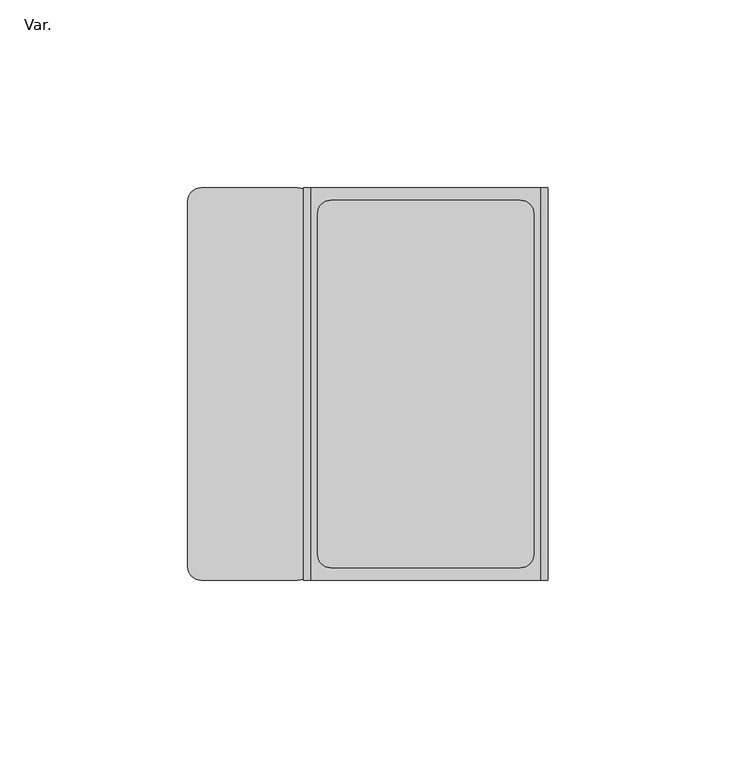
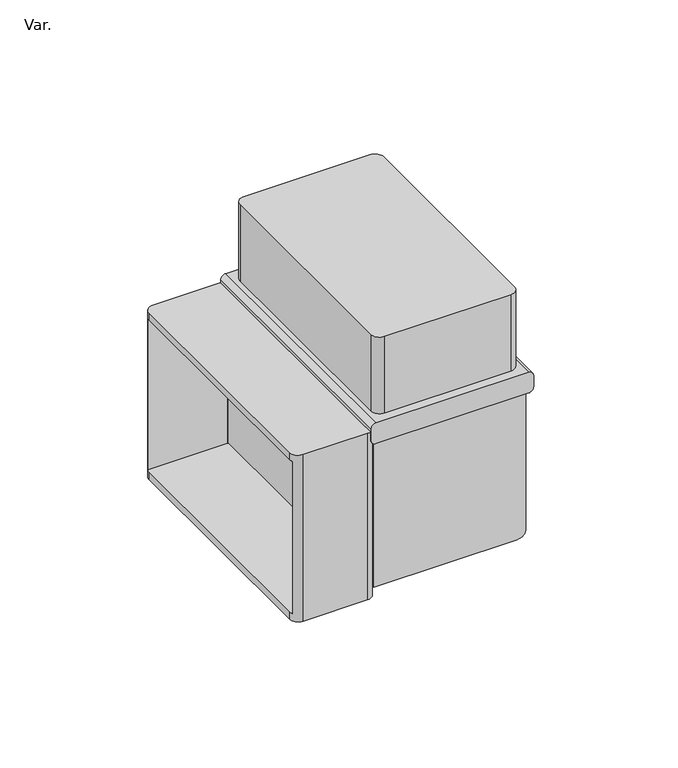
"""IFC4 building model written with IfcOpenShell, lengths in millimetres: pipe fitting geometry, AmancoWavin_Unionesdetubería_CanalesyBajantes_CodoRectangular : Var.."""

import ifcopenshell
import ifcopenshell.guid

model = None  # the IFC model being written
_history = None  # IfcOwnerHistory: only IFC2X3 demands one
_inside = {}  # id of a spatial element -> (the spatial element, [elements in it])
_under = {}  # id of a project, library or spatial element -> (it, [spatial elements below it])
_declared = {}  # id of a project -> (the project, [libraries it declares])
_typed = {}  # id of a type object -> (the type object, [elements of that type])
_made_of = {}  # id of a material, layer set ... -> (it, [elements and type objects made of it])


def new_model(schema):
    """Start an empty IFC model of exactly this schema.

    Asked for "IFC4X3", IfcOpenShell would pick the latest addendum, in which some entities
    have other attributes; the version numbers below select the first issue.
    IFC2X3 requires an IfcOwnerHistory on every rooted entity: one is made here for all.
    """
    global model, _history
    if schema == "IFC4X3":
        model = ifcopenshell.file(schema_version=(4, 3, 0, 0))
    else:
        model = ifcopenshell.file(schema=schema)
    _inside.clear()
    _under.clear()
    _declared.clear()
    _typed.clear()
    _made_of.clear()
    _history = None
    if model.schema == "IFC2X3":
        org = make("IfcOrganization", Name="unknown")
        user = make(
            "IfcPersonAndOrganization",
            ThePerson=make("IfcPerson", FamilyName="unknown"),
            TheOrganization=org,
        )
        app = make(
            "IfcApplication",
            ApplicationDeveloper=org,
            Version="unknown",
            ApplicationFullName="unknown",
            ApplicationIdentifier="unknown",
        )
        _history = make(
            "IfcOwnerHistory",
            OwningUser=user,
            OwningApplication=app,
            ChangeAction="ADDED",
            CreationDate=0,
        )
    return model


def make(cls, **values):
    """One entity of the class cls with the attributes given. An attribute that is None is left unset."""
    return model.create_entity(
        cls, **{name: value for name, value in values.items() if value is not None}
    )


def rooted(cls, **values):
    """An entity with a GlobalId (a new one), such as an element, a storey or a relation."""
    return make(cls, GlobalId=ifcopenshell.guid.new(), OwnerHistory=_history, **values)


def si_unit(unit_type, name, prefix=None):
    """IfcSIUnit, for example si_unit("LENGTHUNIT", "METRE", prefix="MILLI")."""
    return make("IfcSIUnit", UnitType=unit_type, Prefix=prefix, Name=name)


def assignment(units):
    """IfcUnitAssignment: the units of a project."""
    return None if units is None else make("IfcUnitAssignment", Units=units)


def point(xyz):
    """IfcCartesianPoint."""
    return None if xyz is None else make("IfcCartesianPoint", Coordinates=xyz)


def direction(xyz):
    """IfcDirection."""
    return None if xyz is None else make("IfcDirection", DirectionRatios=xyz)


def frame(location, z_axis=None, x_axis=None):
    """IfcAxis2Placement3D, a coordinate frame: its origin and axes. An axis left out is left unset."""
    return make(
        "IfcAxis2Placement3D",
        Location=point(location),
        Axis=direction(z_axis),
        RefDirection=direction(x_axis),
    )


def frame_2d(location, x_axis=None):
    """IfcAxis2Placement2D, a coordinate frame in the plane: its origin and x axis."""
    return make(
        "IfcAxis2Placement2D", Location=point(location), RefDirection=direction(x_axis)
    )


def origin():
    """The frame at (0, 0, 0) with its axes left unset."""
    return frame((0.0, 0.0, 0.0))


def place(relative_to, where):
    """IfcLocalPlacement: puts the frame where relative to a parent placement (None: the world)."""
    return make(
        "IfcLocalPlacement", PlacementRelTo=relative_to, RelativePlacement=where
    )


def context(
    kind, dimensions, precision=None, world=None, true_north=None, identifier=None
):
    """IfcGeometricRepresentationContext, for example the 3D "Model" context."""
    return make(
        "IfcGeometricRepresentationContext",
        ContextIdentifier=identifier,
        ContextType=kind,
        CoordinateSpaceDimension=dimensions,
        Precision=precision,
        WorldCoordinateSystem=world,
        TrueNorth=true_north,
    )


def project(units=None, contexts=None):
    """IfcProject with its units and contexts."""
    return rooted(
        "IfcProject",
        Name="project",
        RepresentationContexts=contexts,
        UnitsInContext=assignment(units),
    )


def spatial(cls, under=None, at=None, **own):
    """A site, building, storey or space (cls), placed at a placement, below another one or the project."""
    s = rooted(cls, ObjectPlacement=at, **own)
    if under is not None:
        _under.setdefault(under.id(), (under, []))[1].append(s)
    return s


def polyline(points):
    """IfcPolyline through the points."""
    return make("IfcPolyline", Points=[point(p) for p in points])


def circle_curve(where, radius):
    """IfcCircle in the frame where."""
    return make("IfcCircle", Position=where, Radius=radius)


def trimmed(basis, trim1, trim2, sense, master):
    """IfcTrimmedCurve: the piece of a basis curve between two trims."""
    return make(
        "IfcTrimmedCurve",
        BasisCurve=basis,
        Trim1=trim1,
        Trim2=trim2,
        SenseAgreement=sense,
        MasterRepresentation=master,
    )


def segment(curve, same_sense, transition):
    """IfcCompositeCurveSegment."""
    return make(
        "IfcCompositeCurveSegment",
        Transition=transition,
        SameSense=same_sense,
        ParentCurve=curve,
    )


def composite_curve(segments, self_intersect=None):
    """IfcCompositeCurve: segments joined end to end."""
    return make("IfcCompositeCurve", Segments=segments, SelfIntersect=self_intersect)


def outline(outer, holes=None, kind="AREA"):
    """IfcArbitraryClosedProfileDef: a profile drawn as a closed curve; with holes, ...WithVoids."""
    if holes is None:
        return make("IfcArbitraryClosedProfileDef", ProfileType=kind, OuterCurve=outer)
    return make(
        "IfcArbitraryProfileDefWithVoids",
        ProfileType=kind,
        OuterCurve=outer,
        InnerCurves=holes,
    )


def extrude(swept, where, along, depth):
    """IfcExtrudedAreaSolid: the profile swept, set in the frame where, extruded along a direction by depth."""
    return make(
        "IfcExtrudedAreaSolid",
        SweptArea=swept,
        Position=where,
        ExtrudedDirection=direction(along),
        Depth=depth,
    )


def shape(context_of_items, identifier, shape_type, items):
    """IfcShapeRepresentation: the items that make up one representation, for example the "Body"."""
    return make(
        "IfcShapeRepresentation",
        ContextOfItems=context_of_items,
        RepresentationIdentifier=identifier,
        RepresentationType=shape_type,
        Items=items,
    )


def source(mapping_origin, context_of_items, identifier, shape_type, items):
    """IfcRepresentationMap: a shape defined once, which mapped items show again and again."""
    return make(
        "IfcRepresentationMap",
        MappingOrigin=mapping_origin,
        MappedRepresentation=shape(context_of_items, identifier, shape_type, items),
    )


def transform(
    local_origin,
    x_axis=None,
    y_axis=None,
    z_axis=None,
    scale=None,
    scale2=None,
    scale3=None,
    uniform=True,
):
    """IfcCartesianTransformationOperator3D, or its non-uniform kind. x_axis, y_axis, z_axis: its Axis1, 2, 3."""
    if uniform:
        return make(
            "IfcCartesianTransformationOperator3D",
            Axis1=direction(x_axis),
            Axis2=direction(y_axis),
            LocalOrigin=point(local_origin),
            Scale=scale,
            Axis3=direction(z_axis),
        )
    return make(
        "IfcCartesianTransformationOperator3DnonUniform",
        Axis1=direction(x_axis),
        Axis2=direction(y_axis),
        LocalOrigin=point(local_origin),
        Scale=scale,
        Axis3=direction(z_axis),
        Scale2=scale2,
        Scale3=scale3,
    )


def mapped(mapping_source, mapping_target):
    """IfcMappedItem: shows the shape of a source again, moved by a transform."""
    return make(
        "IfcMappedItem", MappingSource=mapping_source, MappingTarget=mapping_target
    )


def made_of(thing, what):
    """Note that an element or type object is made of a material, layer set ...; save() writes the relation."""
    if what is not None:
        _made_of.setdefault(what.id(), (what, []))[1].append(thing)
    return thing


def element(
    cls,
    number,
    at=None,
    inside=None,
    cuts=None,
    type_object=None,
    material=None,
    context=None,
    identifier="Body",
    shape_type=None,
    held_by="IfcProductDefinitionShape",
    body=None,
    shapes=None,
    **own,
):
    """One element of the class cls, such as IfcWall. Its Tag is "e" and its number.

    at: its placement. inside: the storey or other place that contains it. cuts: it is an
    opening in that element (IfcRelVoidsElement). A single representation is given by context,
    identifier, shape_type and body (its items); several are given by shapes. held_by: the class
    of the entity that holds the representations. save() writes the other relations.
    """
    e = rooted(cls, Tag="e%d" % number, ObjectPlacement=at, **own)
    if body is not None:
        shapes = [shape(context, identifier, shape_type, body)]
    if shapes is not None:
        e.Representation = make(held_by, Representations=shapes)
    if inside is not None:
        _inside.setdefault(inside.id(), (inside, []))[1].append(e)
    if cuts is not None:
        rooted(
            "IfcRelVoidsElement", RelatingBuildingElement=cuts, RelatedOpeningElement=e
        )
    if type_object is not None:
        _typed.setdefault(type_object.id(), (type_object, []))[1].append(e)
    return made_of(e, material)


def aggregate(whole, parts):
    """IfcRelAggregates: a whole, such as a stair, and the parts it consists of."""
    return rooted("IfcRelAggregates", RelatingObject=whole, RelatedObjects=parts)


def save(model, path):
    """Write the relations noted so far, then the file.

    IfcRelAggregates (storeys below a building ...), IfcRelContainedInSpatialStructure (elements
    in a storey), IfcRelDefinesByType, IfcRelAssociatesMaterial and IfcRelDeclares: one each for
    every whole, place, type object, material and project.
    """
    for whole, parts in _under.values():
        aggregate(whole, parts)
    for where, things in _inside.values():
        rooted(
            "IfcRelContainedInSpatialStructure",
            RelatedElements=things,
            RelatingStructure=where,
        )
    for kind, things in _typed.values():
        rooted("IfcRelDefinesByType", RelatedObjects=things, RelatingType=kind)
    for what, things in _made_of.values():
        rooted("IfcRelAssociatesMaterial", RelatedObjects=things, RelatingMaterial=what)
    for by, libraries in _declared.values():
        rooted("IfcRelDeclares", RelatingContext=by, RelatedDefinitions=libraries)
    model.write(path)


def plane_surface(at):
    """IfcPlane: the flat surface through the origin of the frame at, square to its z axis."""
    return make("IfcPlane", Position=at)


def cylinder_surface(at, radius):
    """IfcCylindricalSurface: all points at the distance radius from the z axis of the frame at."""
    return make("IfcCylindricalSurface", Position=at, Radius=radius)


def advanced_brep(points, edges, surfaces, faces):
    """IfcAdvancedBrep: a solid bounded by faces that lie on surfaces and meet in shared edges.

    An edge is (start, end): straight between two places in points (the first is 0);
    or (start, end, curve); or (start, end, curve, False) where it runs against its curve.
    A face is (place in surfaces, loops), or (place, loops, False) where it looks against
    its surface's normal. A loop lists edges by number (the first is 1), with a minus sign
    where the edge is run from its end to its start. The first loop is the outer one.
    """
    corners = [point(p) for p in points]
    vertices = [make("IfcVertexPoint", VertexGeometry=c) for c in corners]
    made = []
    for start, end, *more in edges:
        made.append(
            make(
                "IfcEdgeCurve",
                EdgeStart=vertices[start],
                EdgeEnd=vertices[end],
                EdgeGeometry=more[0] if more else make("IfcPolyline", Points=[corners[start], corners[end]]),
                SameSense=more[1] if len(more) > 1 else True,
            )
        )
    hull = []
    for where, loops, *sense in faces:
        bounds = []
        for j, loop in enumerate(loops):
            ring = [make("IfcOrientedEdge", EdgeElement=made[abs(k) - 1], Orientation=k > 0) for k in loop]
            bounds.append(
                make(
                    "IfcFaceOuterBound" if j == 0 else "IfcFaceBound",
                    Bound=make("IfcEdgeLoop", EdgeList=ring),
                    Orientation=True,
                )
            )
        hull.append(make("IfcAdvancedFace", Bounds=bounds, FaceSurface=surfaces[where], SameSense=sense[0] if sense else True))
    return make("IfcAdvancedBrep", Outer=make("IfcClosedShell", CfsFaces=hull))


def var_97ccc338(model_context):
    return source(origin(), model_context, "Body", "SolidModel", [
        advanced_brep(
        [(30.55, -52.18, 38.46), (-30.55, -52.18, 38.46), (-32.55, -52.18, 36.46), (-32.55, -52.18, 31.7218095), (-30.55, -52.18, 29.7218095), (30.55, -52.18, 29.7218095), (32.55, -52.18, 31.7218095), (32.55, -52.18, 36.46), (30.55, 52.18, 38.46), (32.55, 52.18, 36.46), (32.55, 52.18, 31.7218095), (30.55, 52.18, 29.7218095), (-30.55, 52.18, 29.7218095), (-32.55, 52.18, 31.7218095), (-32.55, 52.18, 36.46), (-30.55, 52.18, 38.46), (-32.55, 50.42, 31.7218095), (-32.55, 50.42, 32.31), (-32.55, -50.42, 32.31), (-32.55, -50.42, 31.7218095), (-30.55, -50.42, 29.7218095), (-30.55, 50.42, 29.7218095), (-30.55, -50.42, 32.31), (-30.55, 50.42, 32.31)],
        [
            (0, 1),
            (1, 2, circle_curve(frame((-30.55, -52.18, 36.46), z_axis=(0.0, -1.0, 0.0), x_axis=(1.0, 0.0, 0.0)), 2.0)),
            (2, 3),
            (3, 4, circle_curve(frame((-30.55, -52.18, 31.7218095), z_axis=(0.0, -1.0, 0.0), x_axis=(1.0, 0.0, 0.0)), 2.0)),
            (4, 5),
            (5, 6, circle_curve(frame((30.55, -52.18, 31.7218095), z_axis=(0.0, -1.0, 0.0), x_axis=(1.0, 0.0, 0.0)), 2.0)),
            (6, 7),
            (7, 0, circle_curve(frame((30.55, -52.18, 36.46), z_axis=(0.0, -1.0, 0.0), x_axis=(1.0, 0.0, 0.0)), 2.0)),
            (8, 9, circle_curve(frame((30.55, 52.18, 36.46), z_axis=(0.0, 1.0, 0.0), x_axis=(1.0, 0.0, 0.0)), 2.0)),
            (9, 10),
            (10, 11, circle_curve(frame((30.55, 52.18, 31.7218095), z_axis=(0.0, 1.0, 0.0), x_axis=(1.0, 0.0, 0.0)), 2.0)),
            (11, 12),
            (12, 13, circle_curve(frame((-30.55, 52.18, 31.7218095), z_axis=(0.0, 1.0, 0.0), x_axis=(1.0, 0.0, 0.0)), 2.0)),
            (13, 14),
            (14, 15, circle_curve(frame((-30.55, 52.18, 36.46), z_axis=(0.0, 1.0, 0.0), x_axis=(1.0, 0.0, 0.0)), 2.0)),
            (15, 8),
            (0, 8),
            (15, 1),
            (14, 2),
            (13, 16),
            (16, 17),
            (17, 18),
            (18, 19),
            (19, 3),
            (19, 20, circle_curve(frame((-30.55, -50.42, 31.7218095), z_axis=(0.0, -1.0, 0.0), x_axis=(1.0, 0.0, 0.0)), 2.0)),
            (20, 4),
            (12, 21),
            (21, 16, circle_curve(frame((-30.55, 50.42, 31.7218095), z_axis=(0.0, 1.0, 0.0), x_axis=(1.0, 0.0, 0.0)), 2.0)),
            (20, 21),
            (11, 5),
            (10, 6),
            (9, 7),
            (22, 20),
            (18, 22),
            (21, 23),
            (23, 17),
            (22, 23),
        ],
        [
            plane_surface(frame((-29.9445585, -52.18, 38.46), z_axis=(0.0, -1.0, 0.0), x_axis=(-1.0, 0.0, 0.0))),
            plane_surface(frame((-29.9445585, 52.18, 38.46), z_axis=(0.0, 1.0, 0.0), x_axis=(1.0, 0.0, 0.0))),
            plane_surface(frame((30.55, -52.18, 38.46), z_axis=(0.0, 0.0, 1.0), x_axis=(0.0, 1.0, 0.0))),
            cylinder_surface(frame((-30.55, 52.18, 36.46), z_axis=(0.0, -1.0, 0.0), x_axis=(1.0, 0.0, 0.0)), 2.0),
            plane_surface(frame((-32.55, -52.18, 36.46), z_axis=(-1.0, 0.0, 0.0), x_axis=(0.0, 1.0, 0.0))),
            cylinder_surface(frame((-30.55, 52.18, 31.7218095), z_axis=(0.0, -1.0, 0.0), x_axis=(1.0, 0.0, 0.0)), 2.0),
            plane_surface(frame((-30.55, -52.18, 29.7218095), z_axis=(0.0, 0.0, -1.0), x_axis=(0.0, 1.0, 0.0))),
            cylinder_surface(frame((30.55, 52.18, 31.7218095), z_axis=(0.0, -1.0, 0.0), x_axis=(1.0, 0.0, 0.0)), 2.0),
            plane_surface(frame((32.55, -52.18, 31.7218095), z_axis=(1.0, 0.0, 0.0), x_axis=(0.0, 1.0, 0.0))),
            cylinder_surface(frame((30.55, 52.18, 36.46), z_axis=(0.0, -1.0, 0.0), x_axis=(1.0, 0.0, 0.0)), 2.0),
            plane_surface(frame((-64.2841156, -50.42, 32.31), z_axis=(0.0, 1.0, 0.0), x_axis=(0.0, 0.0, -1.0))),
            plane_surface(frame((-64.2841156, 50.42, 32.31), z_axis=(0.0, -1.0, 0.0), x_axis=(0.0, 0.0, 1.0))),
            plane_surface(frame((-30.55, -50.42, -32.31), z_axis=(-1.0, 0.0, 0.0), x_axis=(0.0, 1.0, 0.0))),
            plane_surface(frame((-30.55, -50.42, 32.31), z_axis=(0.0, 0.0, -1.0), x_axis=(0.0, 1.0, 0.0))),
        ],
        [
            (0, [[1, 2, 3, 4, 5, 6, 7, 8]]),
            (1, [[9, 10, 11, 12, 13, 14, 15, 16]]),
            (2, [[-1, 17, -16, 18]]),
            (3, [[-2, -18, -15, 19]]),
            (4, [[-3, -19, -14, 20, 21, 22, 23, 24]]),
            (5, [[-4, -24, 25, 26]]),
            (5, [[-13, 27, 28, -20]]),
            (6, [[-5, -26, 29, -27, -12, 30]]),
            (7, [[-6, -30, -11, 31]]),
            (8, [[-7, -31, -10, 32]]),
            (9, [[-8, -32, -9, -17]]),
            (10, [[33, -25, -23, 34]]),
            (11, [[35, 36, -21, -28]]),
            (12, [[37, -35, -29, -33]]),
            (13, [[-37, -34, -22, -36]]),
        ],
    ),
        advanced_brep(
        [(-59.85, 52.18, 35.31), (-63.35, 48.68, 35.31), (-63.35, -48.68, 35.31), (-59.85, -52.18, 35.31), (-34.05, -52.18, 35.31), (-30.55, -48.68, 35.31), (-30.55, 48.68, 35.31), (-34.05, 52.18, 35.31), (-59.85, 52.18, -35.31), (-34.05, 52.18, -35.31), (-30.55, 48.68, -35.31), (-30.55, -48.68, -35.31), (-34.05, -52.18, -35.31), (-59.85, -52.18, -35.31), (-63.35, -48.68, -35.31), (-63.35, 48.68, -35.31), (-63.35, 48.68, 32.31), (-63.35, -48.68, 32.31), (-63.35, -48.68, -32.31), (-63.35, 48.68, -32.31), (-30.55, -48.68, 32.31), (-30.55, 48.68, 32.31), (-30.55, 48.68, -32.31), (-30.55, -48.68, -32.31), (-31.0131595, -50.42, -32.31), (-31.0131595, -50.42, 32.31), (-31.0131595, 50.42, 32.31), (-31.0131595, 50.42, -32.31), (-62.8868405, 50.42, -32.31), (-62.8868405, 50.42, 32.31), (-62.8868405, -50.42, 32.31), (-62.8868405, -50.42, -32.31)],
        [
            (0, 1, circle_curve(frame((-59.85, 48.68, 35.31), z_axis=(0.0, 0.0, 1.0), x_axis=(1.0, 0.0, 0.0)), 3.5)),
            (1, 2),
            (2, 3, circle_curve(frame((-59.85, -48.68, 35.31), z_axis=(0.0, 0.0, 1.0), x_axis=(1.0, 0.0, 0.0)), 3.5)),
            (3, 4),
            (4, 5, circle_curve(frame((-34.05, -48.68, 35.31), z_axis=(0.0, 0.0, 1.0), x_axis=(1.0, 0.0, 0.0)), 3.5)),
            (5, 6),
            (6, 7, circle_curve(frame((-34.05, 48.68, 35.31), z_axis=(0.0, 0.0, 1.0), x_axis=(1.0, 0.0, 0.0)), 3.5)),
            (7, 0),
            (8, 9),
            (9, 10, circle_curve(frame((-34.05, 48.68, -35.31), z_axis=(0.0, 0.0, -1.0), x_axis=(1.0, 0.0, 0.0)), 3.5)),
            (10, 11),
            (11, 12, circle_curve(frame((-34.05, -48.68, -35.31), z_axis=(0.0, 0.0, -1.0), x_axis=(1.0, 0.0, 0.0)), 3.5)),
            (12, 13),
            (13, 14, circle_curve(frame((-59.85, -48.68, -35.31), z_axis=(0.0, 0.0, -1.0), x_axis=(1.0, 0.0, 0.0)), 3.5)),
            (14, 15),
            (15, 8, circle_curve(frame((-59.85, 48.68, -35.31), z_axis=(0.0, 0.0, -1.0), x_axis=(1.0, 0.0, 0.0)), 3.5)),
            (1, 16),
            (16, 17),
            (17, 2),
            (14, 18),
            (18, 19),
            (19, 15),
            (3, 13),
            (12, 4),
            (5, 20),
            (20, 21),
            (21, 6),
            (10, 22),
            (22, 23),
            (23, 11),
            (7, 9),
            (8, 0),
            (23, 24, circle_curve(frame((-34.05, -48.68, -32.31), z_axis=(0.0, 0.0, -1.0), x_axis=(1.0, 0.0, 0.0)), 3.5)),
            (24, 25),
            (25, 20, circle_curve(frame((-34.05, -48.68, 32.31), z_axis=(0.0, 0.0, 1.0), x_axis=(1.0, 0.0, 0.0)), 3.5)),
            (21, 26, circle_curve(frame((-34.05, 48.68, 32.31), z_axis=(0.0, 0.0, 1.0), x_axis=(1.0, 0.0, 0.0)), 3.5)),
            (26, 27),
            (27, 22, circle_curve(frame((-34.05, 48.68, -32.31), z_axis=(0.0, 0.0, -1.0), x_axis=(1.0, 0.0, 0.0)), 3.5)),
            (19, 28, circle_curve(frame((-59.85, 48.68, -32.31), z_axis=(0.0, 0.0, -1.0), x_axis=(1.0, 0.0, 0.0)), 3.5)),
            (28, 29),
            (29, 16, circle_curve(frame((-59.85, 48.68, 32.31), z_axis=(0.0, 0.0, 1.0), x_axis=(1.0, 0.0, 0.0)), 3.5)),
            (17, 30, circle_curve(frame((-59.85, -48.68, 32.31), z_axis=(0.0, 0.0, 1.0), x_axis=(1.0, 0.0, 0.0)), 3.5)),
            (30, 31),
            (31, 18, circle_curve(frame((-59.85, -48.68, -32.31), z_axis=(0.0, 0.0, -1.0), x_axis=(1.0, 0.0, 0.0)), 3.5)),
            (30, 25),
            (24, 31),
            (28, 27),
            (26, 29),
        ],
        [
            plane_surface(frame((-56.35, 48.68, 35.31), z_axis=(0.0, 0.0, 1.0), x_axis=(0.0, 1.0, 0.0))),
            plane_surface(frame((-56.35, 48.68, -35.31), z_axis=(0.0, 0.0, -1.0), x_axis=(0.0, -1.0, 0.0))),
            plane_surface(frame((-63.35, 48.68, 35.31), z_axis=(-1.0, 0.0, 0.0), x_axis=(0.0, 0.0, -1.0))),
            plane_surface(frame((-59.85, -52.18, 35.31), z_axis=(0.0, -1.0, 0.0), x_axis=(0.0, 0.0, -1.0))),
            plane_surface(frame((-30.55, -48.68, 35.31), z_axis=(1.0, 0.0, 0.0), x_axis=(0.0, 0.0, -1.0))),
            plane_surface(frame((-34.05, 52.18, 35.31), z_axis=(0.0, 1.0, 0.0), x_axis=(0.0, 0.0, -1.0))),
            cylinder_surface(frame((-34.05, -48.68, -35.31), z_axis=(0.0, 0.0, 1.0), x_axis=(1.0, 0.0, 0.0)), 3.5),
            cylinder_surface(frame((-34.05, 48.68, -35.31), z_axis=(0.0, 0.0, 1.0), x_axis=(1.0, 0.0, 0.0)), 3.5),
            cylinder_surface(frame((-59.85, 48.68, -35.31), z_axis=(0.0, 0.0, 1.0), x_axis=(1.0, 0.0, 0.0)), 3.5),
            cylinder_surface(frame((-59.85, -48.68, -35.31), z_axis=(0.0, 0.0, 1.0), x_axis=(1.0, 0.0, 0.0)), 3.5),
            plane_surface(frame((-64.2841156, -50.42, 32.31), z_axis=(0.0, 1.0, 0.0), x_axis=(0.0, 0.0, -1.0))),
            plane_surface(frame((-64.2841156, 50.42, 32.31), z_axis=(0.0, -1.0, 0.0), x_axis=(0.0, 0.0, 1.0))),
            plane_surface(frame((-64.2841156, -50.42, -32.31), z_axis=(0.0, 0.0, 1.0), x_axis=(0.0, 1.0, 0.0))),
            plane_surface(frame((-30.55, -50.42, 32.31), z_axis=(0.0, 0.0, -1.0), x_axis=(0.0, 1.0, 0.0))),
        ],
        [
            (0, [[1, 2, 3, 4, 5, 6, 7, 8]]),
            (1, [[9, 10, 11, 12, 13, 14, 15, 16]]),
            (2, [[-2, 17, 18, 19]]),
            (2, [[-15, 20, 21, 22]]),
            (3, [[-4, 23, -13, 24]]),
            (4, [[-6, 25, 26, 27]]),
            (4, [[-11, 28, 29, 30]]),
            (5, [[-8, 31, -9, 32]]),
            (6, [[-5, -24, -12, -30, 33, 34, 35, -25]]),
            (7, [[-7, -27, 36, 37, 38, -28, -10, -31]]),
            (8, [[-1, -32, -16, -22, 39, 40, 41, -17]]),
            (9, [[-3, -19, 42, 43, 44, -20, -14, -23]]),
            (10, [[45, -34, 46, -43]]),
            (11, [[47, -37, 48, -40]]),
            (12, [[-46, -33, -29, -38, -47, -39, -21, -44]]),
            (13, [[-45, -42, -18, -41, -48, -36, -26, -35]]),
        ],
    ),
        extrude(outline(composite_curve([segment(polyline([(32.31, -30.55), (-32.31, -30.55), (-32.31, 27.05)]), True, "CONTINUOUS"), segment(trimmed(circle_curve(frame_2d((-28.81, 27.05)), 3.5), [point((-32.31, 27.05))], [point((-28.81, 30.55))], False, "CARTESIAN"), True, "CONTINUOUS"), segment(polyline([(-28.81, 30.55), (28.81, 30.55)]), True, "CONTINUOUS"), segment(trimmed(circle_curve(frame_2d((28.81, 27.05)), 3.5), [point((28.81, 30.55))], [point((32.31, 27.05))], False, "CARTESIAN"), True, "CONTINUOUS"), segment(polyline([(32.31, 27.05), (32.31, -30.55)]), True, "CONTINUOUS")], self_intersect=False)), frame((0.0, -50.42, 0.0), z_axis=(0.0, 1.0, 0.0), x_axis=(0.0, 0.0, 1.0)), (0.0, 0.0, 1.0), 100.84),
        extrude(outline(composite_curve([segment(trimmed(circle_curve(frame_2d((25.29, 45.3575)), 3.5), [point((25.29, 48.8575))], [point((28.79, 45.3575))], False, "CARTESIAN"), True, "CONTINUOUS"), segment(polyline([(28.79, 45.3575), (28.79, -45.3575)]), True, "CONTINUOUS"), segment(trimmed(circle_curve(frame_2d((25.29, -45.3575)), 3.5), [point((28.79, -45.3575))], [point((25.29, -48.8575))], False, "CARTESIAN"), True, "CONTINUOUS"), segment(polyline([(25.29, -48.8575), (-25.29, -48.8575)]), True, "CONTINUOUS"), segment(trimmed(circle_curve(frame_2d((-25.29, -45.3575)), 3.5), [point((-25.29, -48.8575))], [point((-28.79, -45.3575))], False, "CARTESIAN"), True, "CONTINUOUS"), segment(polyline([(-28.79, -45.3575), (-28.79, 45.3575)]), True, "CONTINUOUS"), segment(trimmed(circle_curve(frame_2d((-25.29, 45.3575)), 3.5), [point((-28.79, 45.3575))], [point((-25.29, 48.8575))], False, "CARTESIAN"), True, "CONTINUOUS"), segment(polyline([(-25.29, 48.8575), (25.29, 48.8575)]), True, "CONTINUOUS")], self_intersect=False)), frame((0.0, 0.0, 29.7218095), z_axis=(0.0, 0.0, 1.0), x_axis=(1.0, 0.0, 0.0)), (0.0, 0.0, 1.0), 41.5381905),
    ])


if __name__ == "__main__":
    model = new_model("IFC4")
    model_context = context("Model", 3, world=origin())
    ifc_project = project(units=[si_unit("LENGTHUNIT", "METRE", prefix="MILLI")], contexts=[model_context])
    site = spatial("IfcSite", under=ifc_project)
    building = spatial("IfcBuilding", under=site)
    placement = place(None, origin())
    var_shape = var_97ccc338(model_context)
    element("IfcPipeFitting", 1, ObjectType="AmancoWavin_Unionesdetubería_CanalesyBajantes_CodoRectangular : Var.", at=placement, inside=building, context=model_context, shape_type="MappedRepresentation", body=[
        mapped(var_shape, transform((0.0, 0.0, 0.0), x_axis=(1.0, 0.0, 0.0), y_axis=(0.0, 1.0, 0.0), z_axis=(0.0, 0.0, 1.0))),
    ])
    save(model, "model.ifc")
